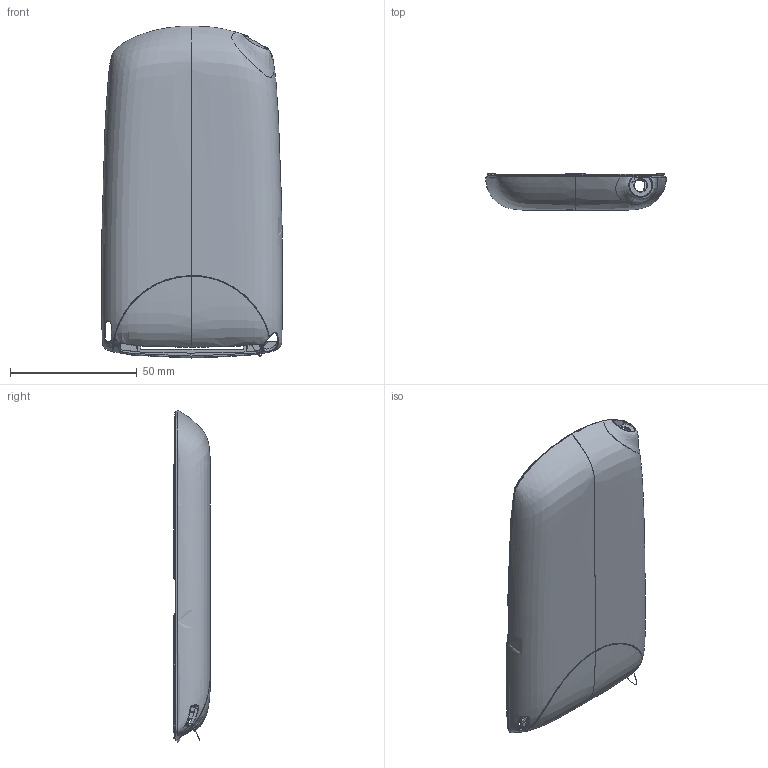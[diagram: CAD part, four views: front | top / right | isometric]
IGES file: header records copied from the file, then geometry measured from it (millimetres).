
Start section:  PTC IGES file: jc_cover_pcmcia_final_prt.igs
Global section: file name: jc_cover_pcmcia_final_prt.igs; native system: Pro/ENGINEER by Parametric Technology Corporation; preprocessor: 2000030; author: ECaille; organization: Unknown; date: 000803.092026; units: millimetre
Bounding box: 71.43 x 14.46 x 131.02 mm (x, y, z)
Surface area: 25044.2 mm2 (no closed solid volume)
Topology: 0 solids, 0 shells, 378 faces, 3682 edges, 5159 vertices
Faces by surface type: bspline 263, revolution 67, extrusion 48
